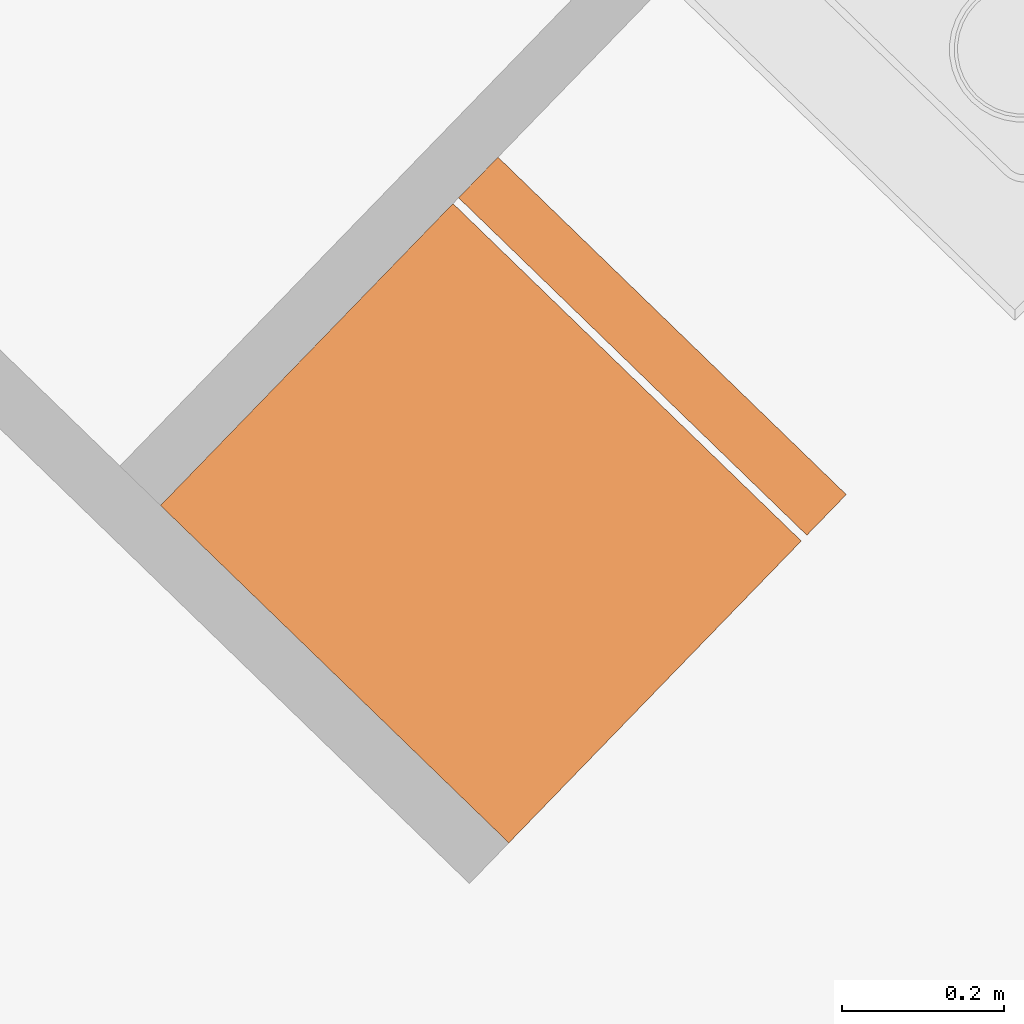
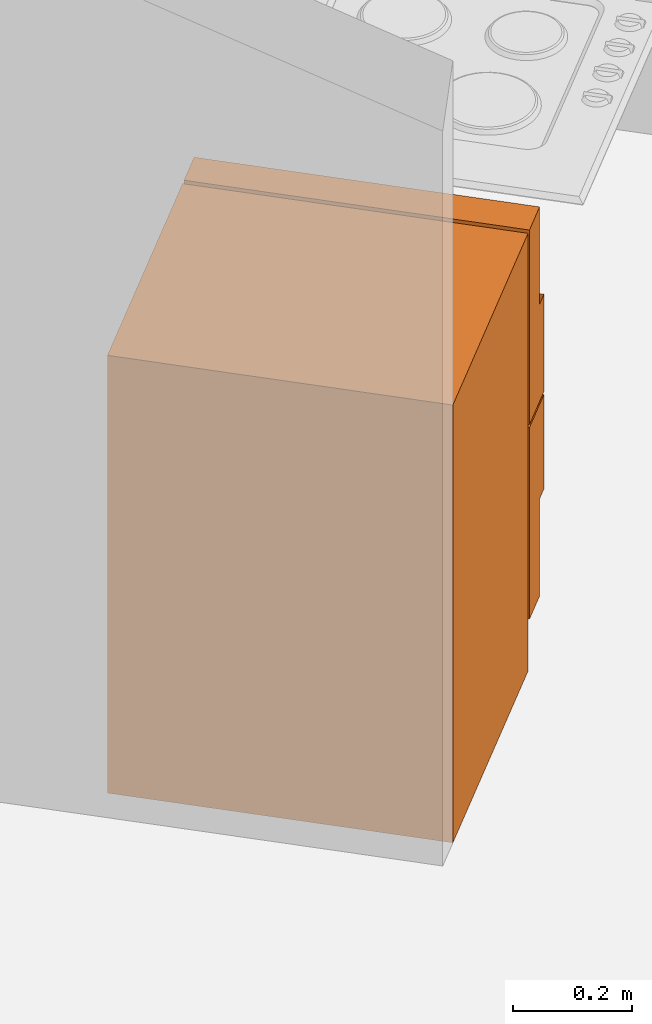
# One storey, part 171 of 195: 1 proxy.
"""IFC2X3 building model written with IfcOpenShell, lengths in metres."""

from ifc_helpers import new_model, entity, si_unit, converted_unit, derived_unit, money_unit, direction, frame, origin_with_axes, place, context, subcontext, project, spatial, open_shell, faceted_brep, surface_model, source, transform, mapped, type_object, element, save


model = new_model("IFC2X3")

# Units and contexts
model_context = context("Model", 3, precision=1e-05, world=origin_with_axes(), true_north=direction((0.0, 1.0)))
body_context = subcontext(model_context, "Body", "Model", "MODEL_VIEW")
ifc_project = project(units=[si_unit("LENGTHUNIT", "METRE"), si_unit("AREAUNIT", "SQUARE_METRE"), si_unit("VOLUMEUNIT", "CUBIC_METRE"), converted_unit("PLANEANGLEUNIT", "DEGREE", entity("IfcPlaneAngleMeasure", 0.0174532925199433), si_unit("PLANEANGLEUNIT", "RADIAN"), dimensions=[0, 0, 0, 0, 0, 0, 0]), money_unit("CHF"), converted_unit("TIMEUNIT", "Year", entity("IfcTimeMeasure", 31557600.0), si_unit("TIMEUNIT", "SECOND"), dimensions=[0, 0, 1, 0, 0, 0, 0]), si_unit("MASSUNIT", "GRAM", prefix="KILO"), si_unit("THERMODYNAMICTEMPERATUREUNIT", "DEGREE_CELSIUS"), si_unit("LUMINOUSINTENSITYUNIT", "LUMEN"), si_unit("ENERGYUNIT", "JOULE", prefix="MEGA"), derived_unit("THERMALCONDUCTANCEUNIT", [(si_unit("POWERUNIT", "WATT"), 1), (si_unit("LENGTHUNIT", "METRE"), -1), (si_unit("THERMODYNAMICTEMPERATUREUNIT", "KELVIN"), -1)]), derived_unit("SPECIFICHEATCAPACITYUNIT", [(si_unit("ENERGYUNIT", "JOULE"), 1), (si_unit("MASSUNIT", "GRAM", prefix="KILO"), -1), (si_unit("THERMODYNAMICTEMPERATUREUNIT", "KELVIN"), -1)]), derived_unit("MASSDENSITYUNIT", [(si_unit("MASSUNIT", "GRAM", prefix="KILO"), 1), (si_unit("VOLUMEUNIT", "CUBIC_METRE"), -1)])], contexts=[model_context])

# Site, building, storey
site_placement = place(None, origin_with_axes())
site = spatial("IfcSite", under=ifc_project, at=site_placement, Name="Site", CompositionType="ELEMENT")
building_placement = place(site_placement, origin_with_axes())
building = spatial("IfcBuilding", under=site, at=building_placement, Name="Bâtiment", CompositionType="ELEMENT")
storey_placement = place(building_placement, origin_with_axes())
storey = spatial("IfcBuildingStorey", under=building, at=storey_placement, Name="rdc", CompositionType="ELEMENT", Elevation=0.0)

# Proxy
building_element_proxy_type = type_object("IfcBuildingElementProxyType", PredefinedType="NOTDEFINED")
shared_shape = source(origin_with_axes(), body_context, "Body", "SurfaceModel", [
    faceted_brep([(0.0, 0.08, 0.1), (0.0, 0.08, 0.9), (-0.6, 0.08, 0.9), (-0.6, 0.08, 0.1), (0.0, 0.6, 0.1), (0.0, 0.6, 0.9), (-0.6, 0.6, 0.9), (-0.6, 0.6, 0.1)], [[[0, 1, 2, 3]], [[4, 5, 1, 0]], [[1, 5, 6, 2]], [[3, 2, 6, 7]], [[0, 3, 7, 4]], [[7, 6, 5, 4]]]),
    faceted_brep([(0.0, 0.08, 0.0), (0.0, 0.08, 0.1), (-0.6, 0.08, 0.1), (-0.6, 0.08, 0.0), (0.0, 0.6, 0.0), (0.0, 0.6, 0.1), (-0.6, 0.6, 0.1), (-0.6, 0.6, 0.0)], [[[0, 1, 2, 3]], [[4, 5, 1, 0]], [[1, 5, 6, 2]], [[3, 2, 6, 7]], [[0, 3, 7, 4]], [[7, 6, 5, 4]]]),
    faceted_brep([(0.0, 0.07, 0.1), (0.0, 0.0, 0.1), (-0.6, 0.0, 0.1), (-0.6, 0.07, 0.1), (0.0, 0.07000000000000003, 0.494), (0.0, 0.0, 0.494), (-0.6, 0.0, 0.494), (-0.6, 0.07000000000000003, 0.494)], [[[0, 1, 2, 3]], [[4, 5, 1, 0]], [[1, 5, 6, 2]], [[3, 2, 6, 7]], [[0, 3, 7, 4]], [[7, 6, 5, 4]]]),
    faceted_brep([(0.0, 0.07, 0.5), (0.0, 0.0, 0.5), (-0.6, 0.0, 0.5), (-0.6, 0.07, 0.5), (0.0, 0.07000000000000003, 0.9), (0.0, 0.0, 0.9), (-0.6, 0.0, 0.9), (-0.6, 0.07000000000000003, 0.9)], [[[0, 1, 2, 3]], [[4, 5, 1, 0]], [[1, 5, 6, 2]], [[3, 2, 6, 7]], [[0, 3, 7, 4]], [[7, 6, 5, 4]]]),
    surface_model("IfcShellBasedSurfaceModel", [(-0.6, -0.03, 0.3), (-0.6, 0.0, 0.3), (-0.6, 0.0, 0.4940000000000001), (-0.6, -0.03, 0.4940000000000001)], [open_shell([[[0, 1, 2, 3]]])]),
    surface_model("IfcShellBasedSurfaceModel", [(-0.6, -0.03, 0.3), (-0.57, -0.03, 0.3), (-0.57, -0.03, 0.4940000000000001), (-0.6, -0.03, 0.4940000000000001)], [open_shell([[[0, 1, 2, 3]]])]),
    surface_model("IfcShellBasedSurfaceModel", [(-0.6, -0.03, 0.5), (-0.6, 0.0, 0.5), (-0.6, 0.0, 0.7), (-0.6, -0.03, 0.7)], [open_shell([[[0, 1, 2, 3]]])]),
    surface_model("IfcShellBasedSurfaceModel", [(-0.6, -0.03, 0.5), (-0.57, -0.03, 0.5), (-0.57, -0.03, 0.7), (-0.6, -0.03, 0.7)], [open_shell([[[0, 1, 2, 3]]])]),
])
proxy_placement = place(storey_placement, frame((9522.753332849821, -1063.933949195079, 57.7), z_axis=(0.0, 0.0, 1.0), x_axis=(-0.7182234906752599, 0.6958124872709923, 0.0)))
element("IfcBuildingElementProxy", 1, at=proxy_placement, inside=storey, type_object=building_element_proxy_type, Name="Obj.-019", context=body_context, shape_type="MappedRepresentation", body=[
    mapped(shared_shape, transform((0.0, 0.0, 0.0))),
])

save(model, "model.ifc")
